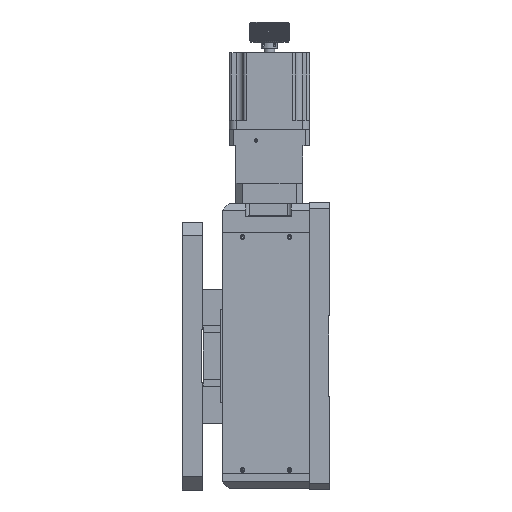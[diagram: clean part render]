
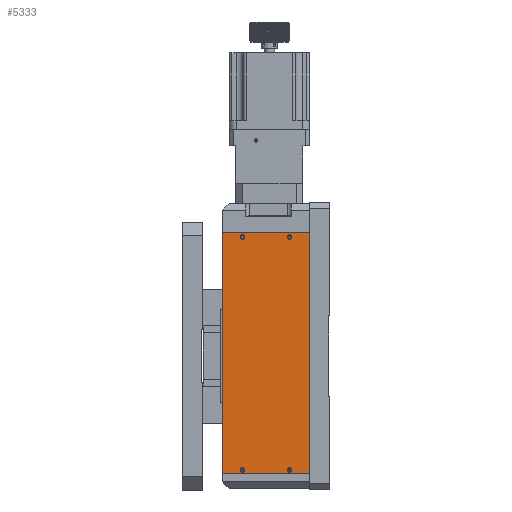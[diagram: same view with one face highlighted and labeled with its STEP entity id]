
A CAD part, left-side view. The second image highlights one B-rep face of the part: STEP entity #5333.
In plain terms, the highlighted planar face has unit normal (-1, 0, 0).
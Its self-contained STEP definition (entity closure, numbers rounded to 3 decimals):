
#470 = LINE ( 'NONE', #40631, #49720 ) ;
#747 = ORIENTED_EDGE ( 'NONE', *, *, #10227, .T. ) ;
#919 = AXIS2_PLACEMENT_3D ( 'NONE', #18007, #45528, #49482 ) ;
#1214 = DIRECTION ( 'NONE',  ( 0., 0., -1. ) ) ;
#3055 = CARTESIAN_POINT ( 'NONE',  ( -86.53, 40.418, 122.5 ) ) ;
#3610 = CIRCLE ( 'NONE', #35308, 1.75 ) ;
#3644 = FACE_BOUND ( 'NONE', #4824, .T. ) ;
#4190 = ORIENTED_EDGE ( 'NONE', *, *, #43587, .F. ) ;
#4824 = EDGE_LOOP ( 'NONE', ( #43749, #747 ) ) ;
#5026 = ORIENTED_EDGE ( 'NONE', *, *, #30450, .T. ) ;
#5333 = ADVANCED_FACE ( 'NONE', ( #27055, #15954, #3644, #16597, #15356 ), #29702, .F. ) ;
#5459 = VERTEX_POINT ( 'NONE', #23131 ) ;
#5569 = DIRECTION ( 'NONE',  ( 0., 0., 1. ) ) ;
#7506 = VECTOR ( 'NONE', #32049, 1000. ) ;
#7564 = DIRECTION ( 'NONE',  ( 1., 0., 0. ) ) ;
#9479 = CARTESIAN_POINT ( 'NONE',  ( -86.53, 7.168, 122.5 ) ) ;
#10193 = DIRECTION ( 'NONE',  ( 0., -1., 0. ) ) ;
#10227 = EDGE_CURVE ( 'NONE', #38276, #45432, #47744, .T. ) ;
#10661 = DIRECTION ( 'NONE',  ( 0., 1., 0. ) ) ;
#11897 = DIRECTION ( 'NONE',  ( 1., 0., 0. ) ) ;
#13983 = CARTESIAN_POINT ( 'NONE',  ( -86.53, 42.168, 296.5 ) ) ;
#14871 = AXIS2_PLACEMENT_3D ( 'NONE', #43184, #11897, #31846 ) ;
#15356 = FACE_OUTER_BOUND ( 'NONE', #36108, .T. ) ;
#15580 = AXIS2_PLACEMENT_3D ( 'NONE', #29127, #37038, #41013 ) ;
#15774 = LINE ( 'NONE', #21051, #22522 ) ;
#15796 = CARTESIAN_POINT ( 'NONE',  ( -86.53, -9.582, 299.5 ) ) ;
#15954 = FACE_BOUND ( 'NONE', #50226, .T. ) ;
#16597 = FACE_BOUND ( 'NONE', #32313, .T. ) ;
#17637 = CIRCLE ( 'NONE', #14871, 1.75 ) ;
#18007 = CARTESIAN_POINT ( 'NONE',  ( -86.53, 22.918, 209.5 ) ) ;
#18829 = DIRECTION ( 'NONE',  ( 1., 0., 0. ) ) ;
#19213 = VERTEX_POINT ( 'NONE', #19712 ) ;
#19273 = DIRECTION ( 'NONE',  ( 0., 1., 0. ) ) ;
#19712 = CARTESIAN_POINT ( 'NONE',  ( -86.53, -9.582, 119.5 ) ) ;
#19731 = DIRECTION ( 'NONE',  ( 1., 0., 0. ) ) ;
#19801 = AXIS2_PLACEMENT_3D ( 'NONE', #50394, #7564, #19273 ) ;
#19978 = CIRCLE ( 'NONE', #26653, 1.75 ) ;
#20157 = ORIENTED_EDGE ( 'NONE', *, *, #29111, .F. ) ;
#20444 = CIRCLE ( 'NONE', #15580, 1.75 ) ;
#21051 = CARTESIAN_POINT ( 'NONE',  ( -86.53, 55.418, 119.5 ) ) ;
#21458 = ORIENTED_EDGE ( 'NONE', *, *, #23028, .F. ) ;
#22522 = VECTOR ( 'NONE', #5569, 1000. ) ;
#22555 = VERTEX_POINT ( 'NONE', #49323 ) ;
#22926 = DIRECTION ( 'NONE',  ( 0., 1., 0. ) ) ;
#23028 = EDGE_CURVE ( 'NONE', #19213, #28318, #35836, .T. ) ;
#23083 = EDGE_CURVE ( 'NONE', #37543, #36015, #20444, .T. ) ;
#23131 = CARTESIAN_POINT ( 'NONE',  ( -86.53, 3.668, 122.5 ) ) ;
#23271 = CARTESIAN_POINT ( 'NONE',  ( -86.53, 3.668, 296.5 ) ) ;
#24117 = ORIENTED_EDGE ( 'NONE', *, *, #23083, .T. ) ;
#24178 = CARTESIAN_POINT ( 'NONE',  ( -86.53, 40.418, 296.5 ) ) ;
#24592 = EDGE_CURVE ( 'NONE', #45432, #38276, #27077, .T. ) ;
#25470 = CARTESIAN_POINT ( 'NONE',  ( -86.53, 55.418, 299.5 ) ) ;
#25564 = VERTEX_POINT ( 'NONE', #47692 ) ;
#25601 = DIRECTION ( 'NONE',  ( 1., 0., 0. ) ) ;
#26479 = CARTESIAN_POINT ( 'NONE',  ( -86.53, 7.168, 296.5 ) ) ;
#26552 = CARTESIAN_POINT ( 'NONE',  ( -86.53, 5.418, 296.5 ) ) ;
#26653 = AXIS2_PLACEMENT_3D ( 'NONE', #35374, #38811, #31230 ) ;
#26799 = DIRECTION ( 'NONE',  ( 0., 1., 0. ) ) ;
#27055 = FACE_BOUND ( 'NONE', #30112, .T. ) ;
#27077 = CIRCLE ( 'NONE', #29842, 1.75 ) ;
#27174 = EDGE_CURVE ( 'NONE', #28318, #38640, #15774, .T. ) ;
#28108 = CARTESIAN_POINT ( 'NONE',  ( -86.53, -9.582, 119.5 ) ) ;
#28154 = EDGE_CURVE ( 'NONE', #5459, #38669, #19978, .T. ) ;
#28318 = VERTEX_POINT ( 'NONE', #44464 ) ;
#28881 = CARTESIAN_POINT ( 'NONE',  ( -86.53, -9.582, 119.5 ) ) ;
#29111 = EDGE_CURVE ( 'NONE', #38640, #49120, #470, .T. ) ;
#29127 = CARTESIAN_POINT ( 'NONE',  ( -86.53, 5.418, 296.5 ) ) ;
#29142 = LINE ( 'NONE', #28881, #37143 ) ;
#29702 = PLANE ( 'NONE',  #919 ) ;
#29842 = AXIS2_PLACEMENT_3D ( 'NONE', #38011, #38344, #10661 ) ;
#29891 = EDGE_CURVE ( 'NONE', #38669, #5459, #35003, .T. ) ;
#30112 = EDGE_LOOP ( 'NONE', ( #33097, #46217 ) ) ;
#30450 = EDGE_CURVE ( 'NONE', #22555, #25564, #3610, .T. ) ;
#30734 = AXIS2_PLACEMENT_3D ( 'NONE', #26552, #18829, #22926 ) ;
#31230 = DIRECTION ( 'NONE',  ( 0., 1., 0. ) ) ;
#31846 = DIRECTION ( 'NONE',  ( 0., 1., 0. ) ) ;
#32049 = DIRECTION ( 'NONE',  ( 0., 1., 0. ) ) ;
#32313 = EDGE_LOOP ( 'NONE', ( #24117, #32379 ) ) ;
#32379 = ORIENTED_EDGE ( 'NONE', *, *, #40285, .T. ) ;
#33097 = ORIENTED_EDGE ( 'NONE', *, *, #29891, .T. ) ;
#33640 = ORIENTED_EDGE ( 'NONE', *, *, #27174, .F. ) ;
#34283 = CARTESIAN_POINT ( 'NONE',  ( -86.53, 38.668, 296.5 ) ) ;
#35003 = CIRCLE ( 'NONE', #19801, 1.75 ) ;
#35308 = AXIS2_PLACEMENT_3D ( 'NONE', #3055, #25601, #26799 ) ;
#35374 = CARTESIAN_POINT ( 'NONE',  ( -86.53, 5.418, 122.5 ) ) ;
#35836 = LINE ( 'NONE', #28108, #7506 ) ;
#36015 = VERTEX_POINT ( 'NONE', #23271 ) ;
#36062 = DIRECTION ( 'NONE',  ( 0., 1., 0. ) ) ;
#36108 = EDGE_LOOP ( 'NONE', ( #20157, #33640, #21458, #4190 ) ) ;
#36373 = EDGE_CURVE ( 'NONE', #25564, #22555, #17637, .T. ) ;
#37038 = DIRECTION ( 'NONE',  ( 1., 0., 0. ) ) ;
#37143 = VECTOR ( 'NONE', #1214, 1000. ) ;
#37543 = VERTEX_POINT ( 'NONE', #26479 ) ;
#38011 = CARTESIAN_POINT ( 'NONE',  ( -86.53, 40.418, 296.5 ) ) ;
#38276 = VERTEX_POINT ( 'NONE', #34283 ) ;
#38344 = DIRECTION ( 'NONE',  ( 1., 0., 0. ) ) ;
#38640 = VERTEX_POINT ( 'NONE', #25470 ) ;
#38669 = VERTEX_POINT ( 'NONE', #9479 ) ;
#38811 = DIRECTION ( 'NONE',  ( 1., 0., 0. ) ) ;
#40285 = EDGE_CURVE ( 'NONE', #36015, #37543, #46945, .T. ) ;
#40631 = CARTESIAN_POINT ( 'NONE',  ( -86.53, -9.582, 299.5 ) ) ;
#41013 = DIRECTION ( 'NONE',  ( 0., 1., 0. ) ) ;
#43184 = CARTESIAN_POINT ( 'NONE',  ( -86.53, 40.418, 122.5 ) ) ;
#43587 = EDGE_CURVE ( 'NONE', #49120, #19213, #29142, .T. ) ;
#43749 = ORIENTED_EDGE ( 'NONE', *, *, #24592, .T. ) ;
#44464 = CARTESIAN_POINT ( 'NONE',  ( -86.53, 55.418, 119.5 ) ) ;
#45432 = VERTEX_POINT ( 'NONE', #13983 ) ;
#45528 = DIRECTION ( 'NONE',  ( 1., 0., 0. ) ) ;
#46217 = ORIENTED_EDGE ( 'NONE', *, *, #28154, .T. ) ;
#46945 = CIRCLE ( 'NONE', #30734, 1.75 ) ;
#47692 = CARTESIAN_POINT ( 'NONE',  ( -86.53, 38.668, 122.5 ) ) ;
#47744 = CIRCLE ( 'NONE', #51048, 1.75 ) ;
#49120 = VERTEX_POINT ( 'NONE', #15796 ) ;
#49323 = CARTESIAN_POINT ( 'NONE',  ( -86.53, 42.168, 122.5 ) ) ;
#49482 = DIRECTION ( 'NONE',  ( 0., 1., 0. ) ) ;
#49720 = VECTOR ( 'NONE', #10193, 1000. ) ;
#50130 = ORIENTED_EDGE ( 'NONE', *, *, #36373, .T. ) ;
#50226 = EDGE_LOOP ( 'NONE', ( #5026, #50130 ) ) ;
#50394 = CARTESIAN_POINT ( 'NONE',  ( -86.53, 5.418, 122.5 ) ) ;
#51048 = AXIS2_PLACEMENT_3D ( 'NONE', #24178, #19731, #36062 ) ;
